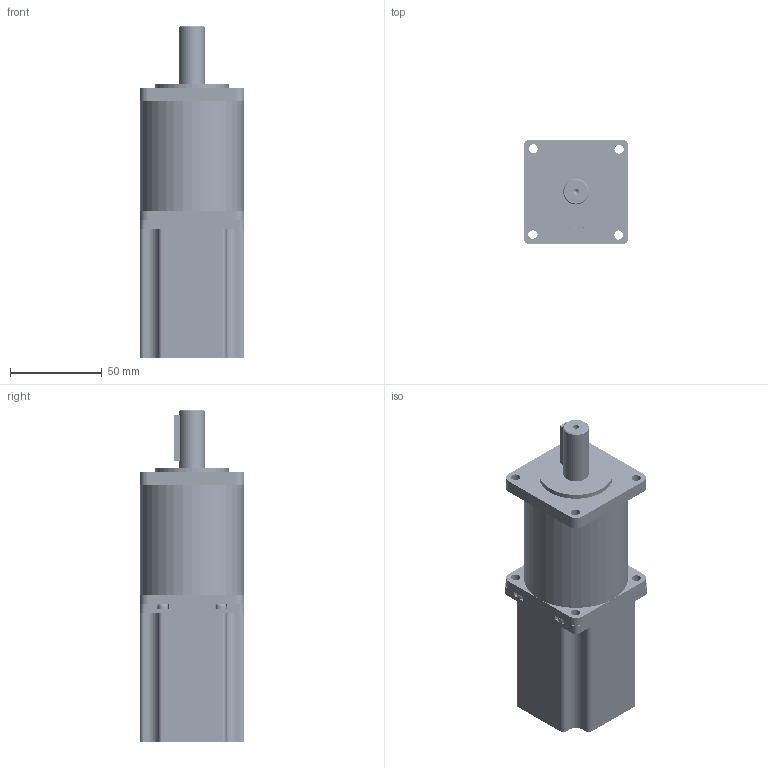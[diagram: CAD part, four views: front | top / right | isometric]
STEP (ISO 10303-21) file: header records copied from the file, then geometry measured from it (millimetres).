
FILE_DESCRIPTION (( 'STEP AP214' ), '1' );
FILE_NAME ('JK57HS76-2008-MBQ10.STEP', '2021-12-29T06:48:05', ( '' ), ( '' ), 'SwSTEP 2.0', 'SolidWorks 2020', '' );
FILE_SCHEMA (( 'AUTOMOTIVE_DESIGN' ));
Length unit declared in the file: millimetre
Products named in the file (7): JK.006.057.001B; 6.35｡ﾁ21; JK.006.057.001F; 57-53 隅赽; MQP10; M3｡ﾁ70; JK57HS76-2008-MBQ10
Assembly tree (9 placements, depth 2):
  JK57HS76-2008-MBQ10
    57-53 隅赽
    6.35｡ﾁ21
    JK.006.057.001B
    JK.006.057.001F
    M3｡ﾁ70  x4
    MQP10
Bounding box: 57 x 57 x 181.4 mm (x, y, z)
Volume: 343066.8 mm3; surface area: 76103.7 mm2
Topology: 9 solids, 9 shells, 1473 faces, 4250 edges, 2815 vertices
Faces by surface type: cylinder 1266, plane 183, bspline 12, torus 8, cone 4
Entity records: 33062 total; most frequent: CARTESIAN_POINT 19923, ORIENTED_EDGE 3078, DIRECTION 2365, EDGE_CURVE 1539, VERTEX_POINT 1018, AXIS2_PLACEMENT_3D 831, LINE 703, VECTOR 703
